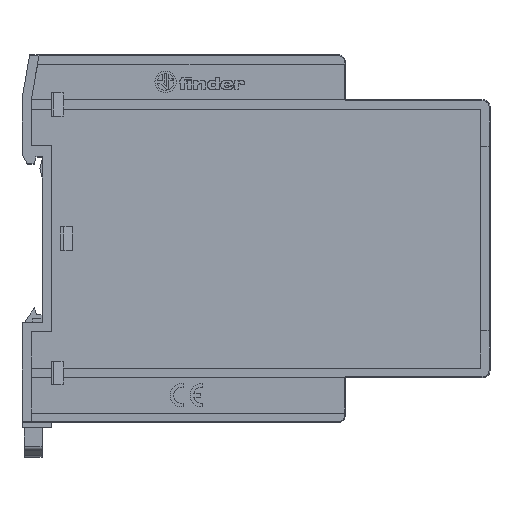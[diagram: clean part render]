
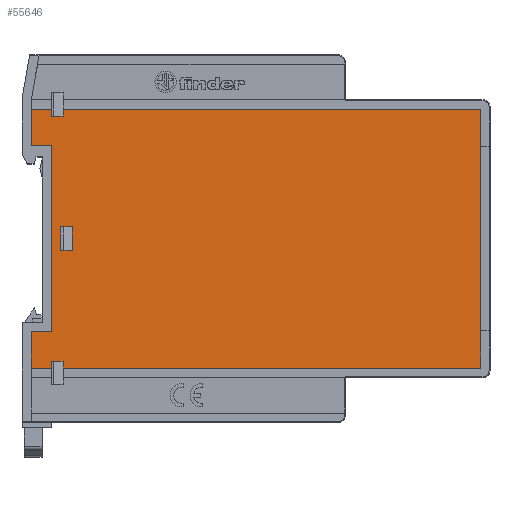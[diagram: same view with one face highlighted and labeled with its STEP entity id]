
A CAD part, top view. The second image highlights one B-rep face of the part: STEP entity #55646.
In plain terms, the highlighted planar face has unit normal (0, 0, 1).
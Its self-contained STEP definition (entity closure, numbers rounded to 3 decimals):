
#1598=LINE('',#80413,#9678);
#1600=LINE('',#80417,#9680);
#1605=LINE('',#80427,#9685);
#1606=LINE('',#80429,#9686);
#1607=LINE('',#80432,#9687);
#1608=LINE('',#80434,#9688);
#1609=LINE('',#80436,#9689);
#1610=LINE('',#80438,#9690);
#1611=LINE('',#80440,#9691);
#1612=LINE('',#80442,#9692);
#1613=LINE('',#80444,#9693);
#1614=LINE('',#80446,#9694);
#1615=LINE('',#80448,#9695);
#1616=LINE('',#80450,#9696);
#1617=LINE('',#80451,#9697);
#1618=LINE('',#80453,#9698);
#1619=LINE('',#80454,#9699);
#1620=LINE('',#80457,#9700);
#1621=LINE('',#80459,#9701);
#1622=LINE('',#80461,#9702);
#9678=VECTOR('',#64759,1000.);
#9680=VECTOR('',#64763,1000.);
#9685=VECTOR('',#64770,1000.);
#9686=VECTOR('',#64773,1000.);
#9687=VECTOR('',#64774,1000.);
#9688=VECTOR('',#64775,1000.);
#9689=VECTOR('',#64776,1000.);
#9690=VECTOR('',#64777,1000.);
#9691=VECTOR('',#64778,1000.);
#9692=VECTOR('',#64779,1000.);
#9693=VECTOR('',#64780,1000.);
#9694=VECTOR('',#64781,1000.);
#9695=VECTOR('',#64782,1000.);
#9696=VECTOR('',#64783,1000.);
#9697=VECTOR('',#64784,1000.);
#9698=VECTOR('',#64785,1000.);
#9699=VECTOR('',#64786,1000.);
#9700=VECTOR('',#64787,1000.);
#9701=VECTOR('',#64788,1000.);
#9702=VECTOR('',#64789,1000.);
#16671=PLANE('',#59836);
#20365=ORIENTED_EDGE('',*,*,#34473,.F.);
#20366=ORIENTED_EDGE('',*,*,#34474,.T.);
#20367=ORIENTED_EDGE('',*,*,#34475,.F.);
#20368=ORIENTED_EDGE('',*,*,#34476,.T.);
#20369=ORIENTED_EDGE('',*,*,#34477,.F.);
#20370=ORIENTED_EDGE('',*,*,#34478,.T.);
#20371=ORIENTED_EDGE('',*,*,#34479,.F.);
#20372=ORIENTED_EDGE('',*,*,#34480,.T.);
#20373=ORIENTED_EDGE('',*,*,#34481,.F.);
#20374=ORIENTED_EDGE('',*,*,#34482,.T.);
#20375=ORIENTED_EDGE('',*,*,#34483,.F.);
#20376=ORIENTED_EDGE('',*,*,#34467,.T.);
#20377=ORIENTED_EDGE('',*,*,#34465,.T.);
#20378=ORIENTED_EDGE('',*,*,#34472,.T.);
#20379=ORIENTED_EDGE('',*,*,#34484,.F.);
#20380=ORIENTED_EDGE('',*,*,#34485,.F.);
#20381=ORIENTED_EDGE('',*,*,#34486,.T.);
#20382=ORIENTED_EDGE('',*,*,#34487,.F.);
#20383=ORIENTED_EDGE('',*,*,#34488,.F.);
#20384=ORIENTED_EDGE('',*,*,#34489,.F.);
#34465=EDGE_CURVE('',#43427,#43426,#1598,.T.);
#34467=EDGE_CURVE('',#43428,#43427,#1600,.T.);
#34472=EDGE_CURVE('',#43426,#43431,#1605,.T.);
#34473=EDGE_CURVE('',#43432,#43433,#1606,.T.);
#34474=EDGE_CURVE('',#43432,#43434,#1607,.T.);
#34475=EDGE_CURVE('',#43435,#43434,#1608,.T.);
#34476=EDGE_CURVE('',#43435,#43436,#1609,.T.);
#34477=EDGE_CURVE('',#43437,#43436,#1610,.T.);
#34478=EDGE_CURVE('',#43437,#43438,#1611,.T.);
#34479=EDGE_CURVE('',#43439,#43438,#1612,.T.);
#34480=EDGE_CURVE('',#43439,#43440,#1613,.T.);
#34481=EDGE_CURVE('',#43441,#43440,#1614,.T.);
#34482=EDGE_CURVE('',#43441,#43442,#1615,.T.);
#34483=EDGE_CURVE('',#43428,#43442,#1616,.T.);
#34484=EDGE_CURVE('',#43443,#43431,#1617,.T.);
#34485=EDGE_CURVE('',#43433,#43443,#1618,.T.);
#34486=EDGE_CURVE('',#43444,#43445,#1619,.T.);
#34487=EDGE_CURVE('',#43446,#43445,#1620,.T.);
#34488=EDGE_CURVE('',#43447,#43446,#1621,.T.);
#34489=EDGE_CURVE('',#43444,#43447,#1622,.T.);
#43426=VERTEX_POINT('',#80412);
#43427=VERTEX_POINT('',#80414);
#43428=VERTEX_POINT('',#80418);
#43431=VERTEX_POINT('',#80426);
#43432=VERTEX_POINT('',#80430);
#43433=VERTEX_POINT('',#80431);
#43434=VERTEX_POINT('',#80433);
#43435=VERTEX_POINT('',#80435);
#43436=VERTEX_POINT('',#80437);
#43437=VERTEX_POINT('',#80439);
#43438=VERTEX_POINT('',#80441);
#43439=VERTEX_POINT('',#80443);
#43440=VERTEX_POINT('',#80445);
#43441=VERTEX_POINT('',#80447);
#43442=VERTEX_POINT('',#80449);
#43443=VERTEX_POINT('',#80452);
#43444=VERTEX_POINT('',#80455);
#43445=VERTEX_POINT('',#80456);
#43446=VERTEX_POINT('',#80458);
#43447=VERTEX_POINT('',#80460);
#50308=EDGE_LOOP('',(#20365,#20366,#20367,#20368,#20369,#20370,#20371,#20372,
#20373,#20374,#20375,#20376,#20377,#20378,#20379,#20380));
#50309=EDGE_LOOP('',(#20381,#20382,#20383,#20384));
#52917=FACE_BOUND('',#50308,.T.);
#52918=FACE_BOUND('',#50309,.T.);
#55646=ADVANCED_FACE('',(#52917,#52918),#16671,.T.);
#59836=AXIS2_PLACEMENT_3D('',#80428,#64771,#64772);
#64759=DIRECTION('',(0.,1.,0.));
#64763=DIRECTION('',(1.,0.,0.));
#64770=DIRECTION('',(-1.,0.,0.));
#64771=DIRECTION('',(0.,0.,1.));
#64772=DIRECTION('',(1.,0.,0.));
#64773=DIRECTION('',(0.,-1.,0.));
#64774=DIRECTION('',(-1.,0.,0.));
#64775=DIRECTION('',(0.,1.,0.));
#64776=DIRECTION('',(1.,0.,0.));
#64777=DIRECTION('',(0.,1.,0.));
#64778=DIRECTION('',(-1.,0.,0.));
#64779=DIRECTION('',(0.,1.,0.));
#64780=DIRECTION('',(1.,0.,0.));
#64781=DIRECTION('',(0.,-1.,0.));
#64782=DIRECTION('',(1.,0.,0.));
#64783=DIRECTION('',(0.,1.,0.));
#64784=DIRECTION('',(0.,1.,0.));
#64785=DIRECTION('',(1.,0.,0.));
#64786=DIRECTION('',(1.,0.,0.));
#64787=DIRECTION('',(0.,1.,0.));
#64788=DIRECTION('',(1.,0.,0.));
#64789=DIRECTION('',(0.,-1.,0.));
#80412=CARTESIAN_POINT('',(48.,27.75,22.5));
#80413=CARTESIAN_POINT('',(48.,-27.75,22.5));
#80414=CARTESIAN_POINT('',(48.,-27.75,22.5));
#80417=CARTESIAN_POINT('',(-41.5,-27.75,22.5));
#80418=CARTESIAN_POINT('',(-41.5,-27.75,22.5));
#80426=CARTESIAN_POINT('',(-41.5,27.75,22.5));
#80427=CARTESIAN_POINT('',(48.,27.75,22.5));
#80428=CARTESIAN_POINT('',(-50.188,28.787,22.5));
#80429=CARTESIAN_POINT('',(-44.,27.75,22.5));
#80430=CARTESIAN_POINT('',(-44.,27.75,22.5));
#80431=CARTESIAN_POINT('',(-44.,26.25,22.5));
#80432=CARTESIAN_POINT('',(-43.243,27.75,22.5));
#80433=CARTESIAN_POINT('',(-48.3,27.75,22.5));
#80434=CARTESIAN_POINT('',(-48.3,20.,22.5));
#80435=CARTESIAN_POINT('',(-48.3,20.,22.5));
#80436=CARTESIAN_POINT('',(-48.3,20.,22.5));
#80437=CARTESIAN_POINT('',(-44.,20.,22.5));
#80438=CARTESIAN_POINT('',(-44.,-20.,22.5));
#80439=CARTESIAN_POINT('',(-44.,-20.,22.5));
#80440=CARTESIAN_POINT('',(-44.,-20.,22.5));
#80441=CARTESIAN_POINT('',(-48.3,-20.,22.5));
#80442=CARTESIAN_POINT('',(-48.3,-27.75,22.5));
#80443=CARTESIAN_POINT('',(-48.3,-27.75,22.5));
#80444=CARTESIAN_POINT('',(-48.3,-27.75,22.5));
#80445=CARTESIAN_POINT('',(-44.,-27.75,22.5));
#80446=CARTESIAN_POINT('',(-44.,-26.25,22.5));
#80447=CARTESIAN_POINT('',(-44.,-26.25,22.5));
#80448=CARTESIAN_POINT('',(-44.,-26.25,22.5));
#80449=CARTESIAN_POINT('',(-41.5,-26.25,22.5));
#80450=CARTESIAN_POINT('',(-41.5,-27.75,22.5));
#80451=CARTESIAN_POINT('',(-41.5,26.25,22.5));
#80452=CARTESIAN_POINT('',(-41.5,26.25,22.5));
#80453=CARTESIAN_POINT('',(-44.,26.25,22.5));
#80454=CARTESIAN_POINT('',(-42.,2.5,22.5));
#80455=CARTESIAN_POINT('',(-42.,2.5,22.5));
#80456=CARTESIAN_POINT('',(-39.5,2.5,22.5));
#80457=CARTESIAN_POINT('',(-39.5,-2.5,22.5));
#80458=CARTESIAN_POINT('',(-39.5,-2.5,22.5));
#80459=CARTESIAN_POINT('',(-42.,-2.5,22.5));
#80460=CARTESIAN_POINT('',(-42.,-2.5,22.5));
#80461=CARTESIAN_POINT('',(-42.,2.5,22.5));
